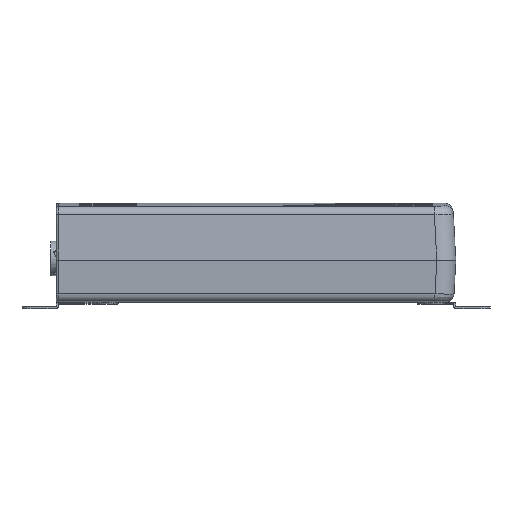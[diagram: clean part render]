
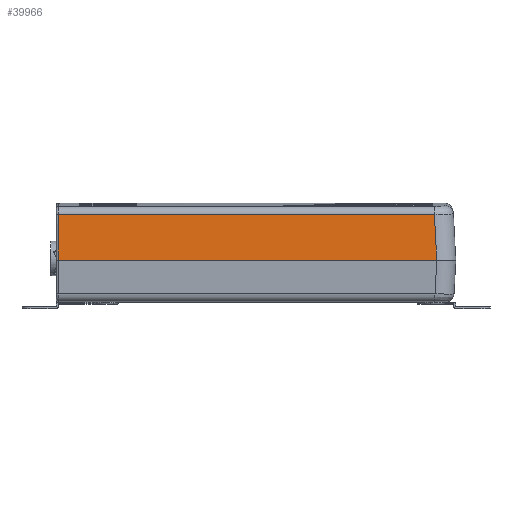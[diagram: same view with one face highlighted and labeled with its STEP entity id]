
A CAD part, top view. The second image highlights one B-rep face of the part: STEP entity #39966.
In plain terms, the highlighted planar face has unit normal (0, 0.052, 0.999).
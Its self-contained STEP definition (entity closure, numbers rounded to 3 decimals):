
#3229 = CARTESIAN_POINT ( 'NONE',  ( 105., 23.881, 42.748 ) ) ;
#3294 = CARTESIAN_POINT ( 'NONE',  ( 95.041, -0.521, 44.027 ) ) ;
#6247 = EDGE_CURVE ( 'NONE', #28039, #55888, #22205, .T. ) ;
#11659 = EDGE_CURVE ( 'NONE', #64139, #55888, #29183, .T. ) ;
#16101 = LINE ( 'NONE', #3294, #33936 ) ;
#18047 = VECTOR ( 'NONE', #39766, 1000. ) ;
#19372 = ORIENTED_EDGE ( 'NONE', *, *, #53831, .T. ) ;
#20928 = ORIENTED_EDGE ( 'NONE', *, *, #6247, .F. ) ;
#22205 = LINE ( 'NONE', #58623, #18047 ) ;
#23653 = PLANE ( 'NONE',  #56041 ) ;
#28039 = VERTEX_POINT ( 'NONE', #77695 ) ;
#29183 = LINE ( 'NONE', #53623, #42121 ) ;
#33594 = LINE ( 'NONE', #3229, #35479 ) ;
#33936 = VECTOR ( 'NONE', #58473, 1000. ) ;
#35479 = VECTOR ( 'NONE', #71624, 1000. ) ;
#37869 = CARTESIAN_POINT ( 'NONE',  ( -104., 23.881, 42.748 ) ) ;
#39308 = DIRECTION ( 'NONE',  ( 0., -0.999, 0.052 ) ) ;
#39766 = DIRECTION ( 'NONE',  ( -1., 0., 0. ) ) ;
#39966 = ADVANCED_FACE ( 'NONE', ( #42792 ), #23653, .F. ) ;
#42121 = VECTOR ( 'NONE', #39308, 1000. ) ;
#42792 = FACE_OUTER_BOUND ( 'NONE', #57835, .T. ) ;
#45746 = ORIENTED_EDGE ( 'NONE', *, *, #11659, .T. ) ;
#53623 = CARTESIAN_POINT ( 'NONE',  ( -104., 0., 44. ) ) ;
#53831 = EDGE_CURVE ( 'NONE', #28039, #75169, #16101, .T. ) ;
#54876 = DIRECTION ( 'NONE',  ( 0., -0.052, -0.999 ) ) ;
#55420 = EDGE_CURVE ( 'NONE', #75169, #64139, #33594, .T. ) ;
#55888 = VERTEX_POINT ( 'NONE', #69757 ) ;
#56041 = AXIS2_PLACEMENT_3D ( 'NONE', #72466, #54876, #66853 ) ;
#57835 = EDGE_LOOP ( 'NONE', ( #69588, #45746, #20928, #19372 ) ) ;
#58473 = DIRECTION ( 'NONE',  ( -0.052, 0.997, -0.052 ) ) ;
#58623 = CARTESIAN_POINT ( 'NONE',  ( 105., 0., 44. ) ) ;
#64139 = VERTEX_POINT ( 'NONE', #37869 ) ;
#64808 = CARTESIAN_POINT ( 'NONE',  ( 93.76, 23.881, 42.748 ) ) ;
#66853 = DIRECTION ( 'NONE',  ( 0., 0.999, -0.052 ) ) ;
#69588 = ORIENTED_EDGE ( 'NONE', *, *, #55420, .T. ) ;
#69757 = CARTESIAN_POINT ( 'NONE',  ( -104., 0., 44. ) ) ;
#71624 = DIRECTION ( 'NONE',  ( -1., 0., 0. ) ) ;
#72466 = CARTESIAN_POINT ( 'NONE',  ( 105., 0., 44. ) ) ;
#75169 = VERTEX_POINT ( 'NONE', #64808 ) ;
#77695 = CARTESIAN_POINT ( 'NONE',  ( 95.014, 0., 44. ) ) ;
